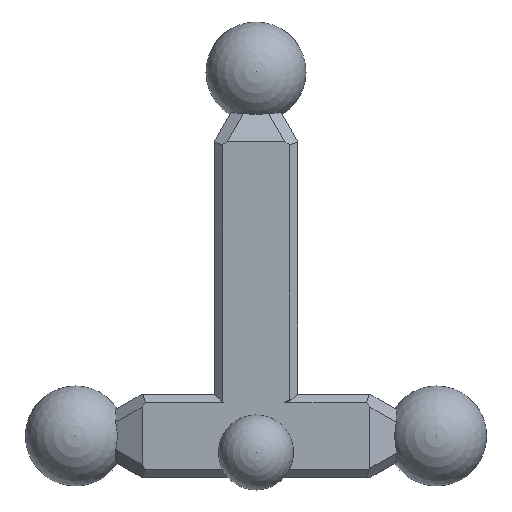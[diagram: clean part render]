
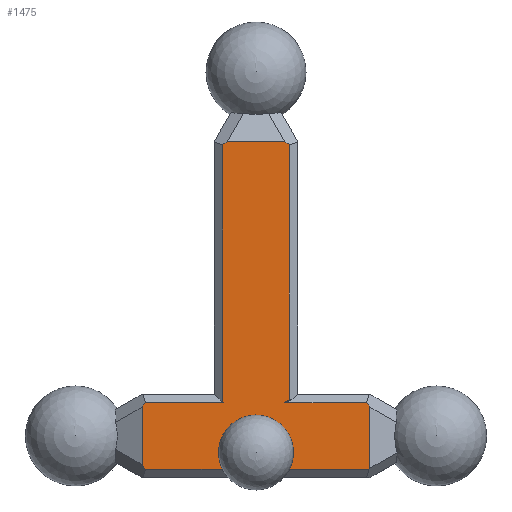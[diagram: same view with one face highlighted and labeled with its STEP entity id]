
A CAD part, top view. The second image highlights one B-rep face of the part: STEP entity #1475.
In plain terms, the highlighted planar face has unit normal (0, 0, 1).
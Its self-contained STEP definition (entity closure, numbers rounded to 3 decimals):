
#10 = ORIENTED_EDGE ( 'NONE', *, *, #1462, .T. ) ;
#23 = VECTOR ( 'NONE', #1664, 1000. ) ;
#25 = LINE ( 'NONE', #1680, #1935 ) ;
#42 = LINE ( 'NONE', #1507, #710 ) ;
#144 = CIRCLE ( 'NONE', #1726, 1.5 ) ;
#151 = DIRECTION ( 'NONE',  ( 0.586, -0.81, 0. ) ) ;
#156 = LINE ( 'NONE', #1681, #458 ) ;
#157 = EDGE_CURVE ( 'NONE', #569, #690, #1264, .T. ) ;
#158 = LINE ( 'NONE', #439, #23 ) ;
#175 = EDGE_CURVE ( 'NONE', #385, #916, #1139, .T. ) ;
#187 = DIRECTION ( 'NONE',  ( 0., 1., 0. ) ) ;
#200 = DIRECTION ( 'NONE',  ( 0., -1., 0. ) ) ;
#207 = VECTOR ( 'NONE', #151, 1000. ) ;
#214 = CARTESIAN_POINT ( 'NONE',  ( -2., -2., 5. ) ) ;
#228 = LINE ( 'NONE', #993, #1397 ) ;
#229 = CARTESIAN_POINT ( 'NONE',  ( -6.633, -23.835, 5. ) ) ;
#245 = EDGE_LOOP ( 'NONE', ( #1166, #1895, #1477, #1093, #1469, #1842, #1214, #1058, #947, #1285, #676, #1679, #785, #1383, #1615, #1368, #10, #668, #1064 ) ) ;
#254 = CARTESIAN_POINT ( 'NONE',  ( -6.835, -23.557, 5. ) ) ;
#292 = VERTEX_POINT ( 'NONE', #899 ) ;
#302 = LINE ( 'NONE', #459, #1750 ) ;
#306 = EDGE_CURVE ( 'NONE', #523, #513, #302, .T. ) ;
#319 = EDGE_CURVE ( 'NONE', #682, #1879, #1684, .T. ) ;
#330 = CARTESIAN_POINT ( 'NONE',  ( -6.633, -19.835, 5. ) ) ;
#338 = VERTEX_POINT ( 'NONE', #1352 ) ;
#341 = LINE ( 'NONE', #946, #207 ) ;
#351 = LINE ( 'NONE', #506, #1271 ) ;
#353 = VERTEX_POINT ( 'NONE', #330 ) ;
#379 = EDGE_CURVE ( 'NONE', #1902, #523, #341, .T. ) ;
#380 = DIRECTION ( 'NONE',  ( 0.71, 0.704, 0. ) ) ;
#385 = VERTEX_POINT ( 'NONE', #1819 ) ;
#391 = DIRECTION ( 'NONE',  ( 1., 0., 0. ) ) ;
#405 = EDGE_CURVE ( 'NONE', #1020, #1631, #1675, .T. ) ;
#410 = LINE ( 'NONE', #1472, #1592 ) ;
#428 = EDGE_CURVE ( 'NONE', #1863, #569, #1359, .T. ) ;
#439 = CARTESIAN_POINT ( 'NONE',  ( 6.835, -19.835, 5. ) ) ;
#450 = VERTEX_POINT ( 'NONE', #656 ) ;
#452 = AXIS2_PLACEMENT_3D ( 'NONE', #644, #1572, #1097 ) ;
#458 = VECTOR ( 'NONE', #935, 1000. ) ;
#459 = CARTESIAN_POINT ( 'NONE',  ( -9., -23.835, 5. ) ) ;
#487 = DIRECTION ( 'NONE',  ( 0.704, -0.71, 0. ) ) ;
#498 = CARTESIAN_POINT ( 'NONE',  ( 7.739, -21.362, 5. ) ) ;
#506 = CARTESIAN_POINT ( 'NONE',  ( -6.835, -24.335, 5. ) ) ;
#507 = CARTESIAN_POINT ( 'NONE',  ( 0., -22.835, 5. ) ) ;
#510 = EDGE_CURVE ( 'NONE', #385, #338, #1624, .T. ) ;
#513 = VERTEX_POINT ( 'NONE', #1716 ) ;
#516 = VECTOR ( 'NONE', #1582, 1000. ) ;
#523 = VERTEX_POINT ( 'NONE', #229 ) ;
#569 = VERTEX_POINT ( 'NONE', #802 ) ;
#629 = CARTESIAN_POINT ( 'NONE',  ( 2., -19.633, 5. ) ) ;
#634 = DIRECTION ( 'NONE',  ( -0.81, -0.586, 0. ) ) ;
#644 = CARTESIAN_POINT ( 'NONE',  ( -2.5, -2., 5. ) ) ;
#646 = CARTESIAN_POINT ( 'NONE',  ( -2.5, -4.165, 5. ) ) ;
#655 = CARTESIAN_POINT ( 'NONE',  ( 0.473, -20.739, 5. ) ) ;
#656 = CARTESIAN_POINT ( 'NONE',  ( -6.835, -20.113, 5. ) ) ;
#661 = CARTESIAN_POINT ( 'NONE',  ( 6.835, -20.113, 5. ) ) ;
#668 = ORIENTED_EDGE ( 'NONE', *, *, #1824, .T. ) ;
#676 = ORIENTED_EDGE ( 'NONE', *, *, #510, .F. ) ;
#680 = EDGE_CURVE ( 'NONE', #353, #450, #410, .T. ) ;
#682 = VERTEX_POINT ( 'NONE', #1795 ) ;
#690 = VERTEX_POINT ( 'NONE', #1022 ) ;
#710 = VECTOR ( 'NONE', #634, 1000. ) ;
#766 = AXIS2_PLACEMENT_3D ( 'NONE', #507, #1573, #1145 ) ;
#785 = ORIENTED_EDGE ( 'NONE', *, *, #1608, .T. ) ;
#786 = EDGE_CURVE ( 'NONE', #1631, #848, #42, .T. ) ;
#790 = CARTESIAN_POINT ( 'NONE',  ( -2.43, -19.342, 5. ) ) ;
#802 = CARTESIAN_POINT ( 'NONE',  ( 6.633, -19.835, 5. ) ) ;
#813 = EDGE_CURVE ( 'NONE', #292, #1020, #156, .T. ) ;
#848 = VERTEX_POINT ( 'NONE', #1061 ) ;
#886 = DIRECTION ( 'NONE',  ( -1., 0., 0. ) ) ;
#892 = VECTOR ( 'NONE', #487, 1000. ) ;
#895 = VECTOR ( 'NONE', #1289, 1000. ) ;
#899 = CARTESIAN_POINT ( 'NONE',  ( 2., -4.367, 5. ) ) ;
#916 = VERTEX_POINT ( 'NONE', #1445 ) ;
#926 = LINE ( 'NONE', #214, #1434 ) ;
#935 = DIRECTION ( 'NONE',  ( -0.81, 0.586, 0. ) ) ;
#946 = CARTESIAN_POINT ( 'NONE',  ( -8.274, -21.569, 5. ) ) ;
#947 = ORIENTED_EDGE ( 'NONE', *, *, #306, .T. ) ;
#965 = PLANE ( 'NONE',  #452 ) ;
#968 = CARTESIAN_POINT ( 'NONE',  ( -9., -23.835, 5. ) ) ;
#989 = EDGE_CURVE ( 'NONE', #1879, #353, #1747, .T. ) ;
#993 = CARTESIAN_POINT ( 'NONE',  ( 6.342, -24.265, 5. ) ) ;
#1002 = CARTESIAN_POINT ( 'NONE',  ( -1.722, -4.165, 5. ) ) ;
#1020 = VERTEX_POINT ( 'NONE', #1253 ) ;
#1022 = CARTESIAN_POINT ( 'NONE',  ( 1.722, -19.835, 5. ) ) ;
#1058 = ORIENTED_EDGE ( 'NONE', *, *, #379, .T. ) ;
#1061 = CARTESIAN_POINT ( 'NONE',  ( -2., -4.367, 5. ) ) ;
#1064 = ORIENTED_EDGE ( 'NONE', *, *, #813, .T. ) ;
#1072 = DIRECTION ( 'NONE',  ( 0., -1., 0. ) ) ;
#1093 = ORIENTED_EDGE ( 'NONE', *, *, #319, .T. ) ;
#1097 = DIRECTION ( 'NONE',  ( -1., 0., 0. ) ) ;
#1119 = LINE ( 'NONE', #655, #1369 ) ;
#1139 = LINE ( 'NONE', #968, #1906 ) ;
#1145 = DIRECTION ( 'NONE',  ( -1., 0., 0. ) ) ;
#1166 = ORIENTED_EDGE ( 'NONE', *, *, #405, .T. ) ;
#1189 = DIRECTION ( 'NONE',  ( -0.586, -0.81, 0. ) ) ;
#1199 = DIRECTION ( 'NONE',  ( 0., 0., 1. ) ) ;
#1205 = VECTOR ( 'NONE', #1806, 1000. ) ;
#1214 = ORIENTED_EDGE ( 'NONE', *, *, #1506, .T. ) ;
#1240 = VERTEX_POINT ( 'NONE', #629 ) ;
#1244 = FACE_OUTER_BOUND ( 'NONE', #245, .T. ) ;
#1253 = CARTESIAN_POINT ( 'NONE',  ( 1.722, -4.165, 5. ) ) ;
#1264 = LINE ( 'NONE', #1443, #516 ) ;
#1271 = VECTOR ( 'NONE', #200, 1000. ) ;
#1280 = EDGE_CURVE ( 'NONE', #338, #513, #144, .T. ) ;
#1285 = ORIENTED_EDGE ( 'NONE', *, *, #1280, .F. ) ;
#1289 = DIRECTION ( 'NONE',  ( -1., 0., 0. ) ) ;
#1293 = EDGE_CURVE ( 'NONE', #1554, #1863, #158, .T. ) ;
#1297 = CARTESIAN_POINT ( 'NONE',  ( -9., -19.835, 5. ) ) ;
#1334 = VECTOR ( 'NONE', #1706, 1000. ) ;
#1352 = CARTESIAN_POINT ( 'NONE',  ( 0., -21.335, 5. ) ) ;
#1359 = LINE ( 'NONE', #498, #1334 ) ;
#1368 = ORIENTED_EDGE ( 'NONE', *, *, #157, .T. ) ;
#1369 = VECTOR ( 'NONE', #1412, 1000. ) ;
#1383 = ORIENTED_EDGE ( 'NONE', *, *, #1293, .T. ) ;
#1397 = VECTOR ( 'NONE', #380, 1000. ) ;
#1412 = DIRECTION ( 'NONE',  ( 0.81, 0.586, 0. ) ) ;
#1422 = EDGE_CURVE ( 'NONE', #848, #682, #926, .T. ) ;
#1434 = VECTOR ( 'NONE', #1072, 1000. ) ;
#1443 = CARTESIAN_POINT ( 'NONE',  ( -9., -19.835, 5. ) ) ;
#1445 = CARTESIAN_POINT ( 'NONE',  ( 6.775, -23.835, 5. ) ) ;
#1449 = CARTESIAN_POINT ( 'NONE',  ( 6.835, -23.776, 5. ) ) ;
#1462 = EDGE_CURVE ( 'NONE', #690, #1240, #1119, .T. ) ;
#1469 = ORIENTED_EDGE ( 'NONE', *, *, #989, .T. ) ;
#1472 = CARTESIAN_POINT ( 'NONE',  ( -8.274, -22.101, 5. ) ) ;
#1475 = ADVANCED_FACE ( 'NONE', ( #1244 ), #965, .F. ) ;
#1477 = ORIENTED_EDGE ( 'NONE', *, *, #1422, .T. ) ;
#1506 = EDGE_CURVE ( 'NONE', #450, #1902, #351, .T. ) ;
#1507 = CARTESIAN_POINT ( 'NONE',  ( 0.266, -2.726, 5. ) ) ;
#1554 = VERTEX_POINT ( 'NONE', #1449 ) ;
#1572 = DIRECTION ( 'NONE',  ( 0., 0., -1. ) ) ;
#1573 = DIRECTION ( 'NONE',  ( 0., 0., 1. ) ) ;
#1582 = DIRECTION ( 'NONE',  ( -1., 0., 0. ) ) ;
#1592 = VECTOR ( 'NONE', #1189, 1000. ) ;
#1608 = EDGE_CURVE ( 'NONE', #916, #1554, #228, .T. ) ;
#1615 = ORIENTED_EDGE ( 'NONE', *, *, #428, .T. ) ;
#1624 = CIRCLE ( 'NONE', #766, 1.5 ) ;
#1631 = VERTEX_POINT ( 'NONE', #1002 ) ;
#1664 = DIRECTION ( 'NONE',  ( 0., 1., 0. ) ) ;
#1675 = LINE ( 'NONE', #646, #1205 ) ;
#1679 = ORIENTED_EDGE ( 'NONE', *, *, #175, .T. ) ;
#1680 = CARTESIAN_POINT ( 'NONE',  ( 2., -2., 5. ) ) ;
#1681 = CARTESIAN_POINT ( 'NONE',  ( -0.266, -2.726, 5. ) ) ;
#1684 = LINE ( 'NONE', #790, #892 ) ;
#1706 = DIRECTION ( 'NONE',  ( -0.586, 0.81, 0. ) ) ;
#1716 = CARTESIAN_POINT ( 'NONE',  ( -1.118, -23.835, 5. ) ) ;
#1726 = AXIS2_PLACEMENT_3D ( 'NONE', #1947, #1199, #886 ) ;
#1747 = LINE ( 'NONE', #1297, #895 ) ;
#1750 = VECTOR ( 'NONE', #1838, 1000. ) ;
#1795 = CARTESIAN_POINT ( 'NONE',  ( -2., -19.775, 5. ) ) ;
#1806 = DIRECTION ( 'NONE',  ( -1., 0., 0. ) ) ;
#1819 = CARTESIAN_POINT ( 'NONE',  ( 1.118, -23.835, 5. ) ) ;
#1824 = EDGE_CURVE ( 'NONE', #1240, #292, #25, .T. ) ;
#1838 = DIRECTION ( 'NONE',  ( 1., 0., 0. ) ) ;
#1842 = ORIENTED_EDGE ( 'NONE', *, *, #680, .T. ) ;
#1863 = VERTEX_POINT ( 'NONE', #661 ) ;
#1879 = VERTEX_POINT ( 'NONE', #1894 ) ;
#1894 = CARTESIAN_POINT ( 'NONE',  ( -1.941, -19.835, 5. ) ) ;
#1895 = ORIENTED_EDGE ( 'NONE', *, *, #786, .T. ) ;
#1902 = VERTEX_POINT ( 'NONE', #254 ) ;
#1906 = VECTOR ( 'NONE', #391, 1000. ) ;
#1935 = VECTOR ( 'NONE', #187, 1000. ) ;
#1947 = CARTESIAN_POINT ( 'NONE',  ( 0., -22.835, 5. ) ) ;
